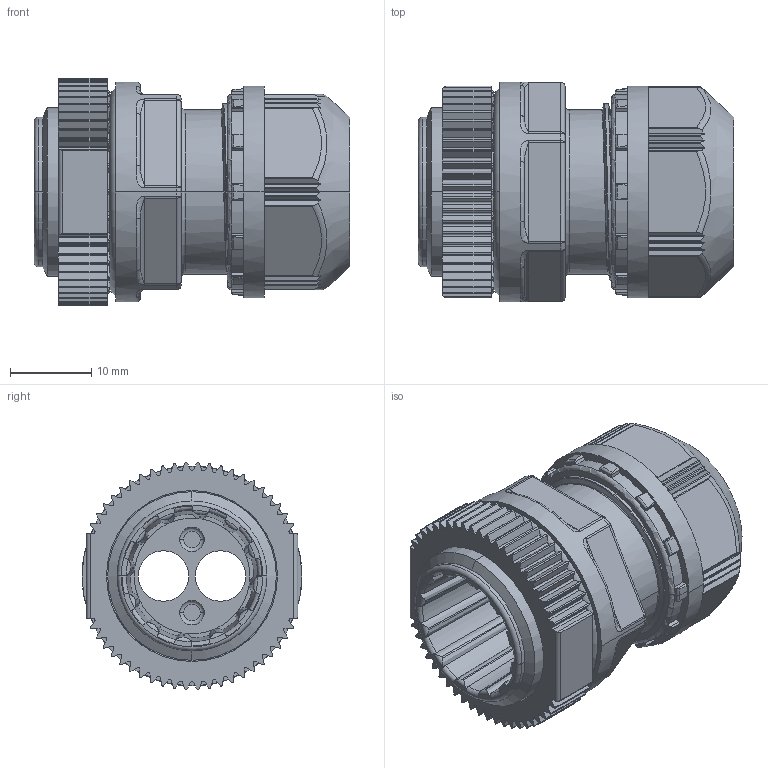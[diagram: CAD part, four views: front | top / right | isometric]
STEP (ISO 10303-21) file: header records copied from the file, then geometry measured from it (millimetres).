
FILE_DESCRIPTION(('CoCreate Modeling STEP Export'),'2;1');
FILE_NAME('OA-W16-602_公開データ.stp','2011-07-19T11:38:55',(''),(''),'CoCreate Modeling STEP processor for AP214 (Solid Model)','CoCreate Modeling 17.00A 17-Jun-2010 (C) Parametric Technology GmbH','');
FILE_SCHEMA(('AUTOMOTIVE_DESIGN { 1 0 10303 214 1 1 1 1 }'));
Length unit declared in the file: millimetre
Products named in the file (5): OA-W16-602; ゴムブッシュ; ﾛｯｸﾅｯﾄ
Assembly tree (2 placements, depth 2):
  OA-W16-602
    OA-W16-602
  ゴムブッシュ
  ﾛｯｸﾅｯﾄ
    ﾛｯｸﾅｯﾄ
Bounding box: 38.7 x 27 x 27.96 mm (x, y, z)
Volume: 13110.5 mm3; surface area: 10591.3 mm2
Topology: 3 solids, 3 shells, 1070 faces, 2929 edges, 1809 vertices
Faces by surface type: cylinder 457, plane 346, bspline 78, torus 72, sphere 69, cone 48
Entity records: 50838 total; most frequent: CARTESIAN_POINT 26553, ORIENTED_EDGE 5720, DIRECTION 4203, EDGE_CURVE 2860, VERTEX_POINT 1809, AXIS2_PLACEMENT_3D 1509, VECTOR 1185, LINE 1185
